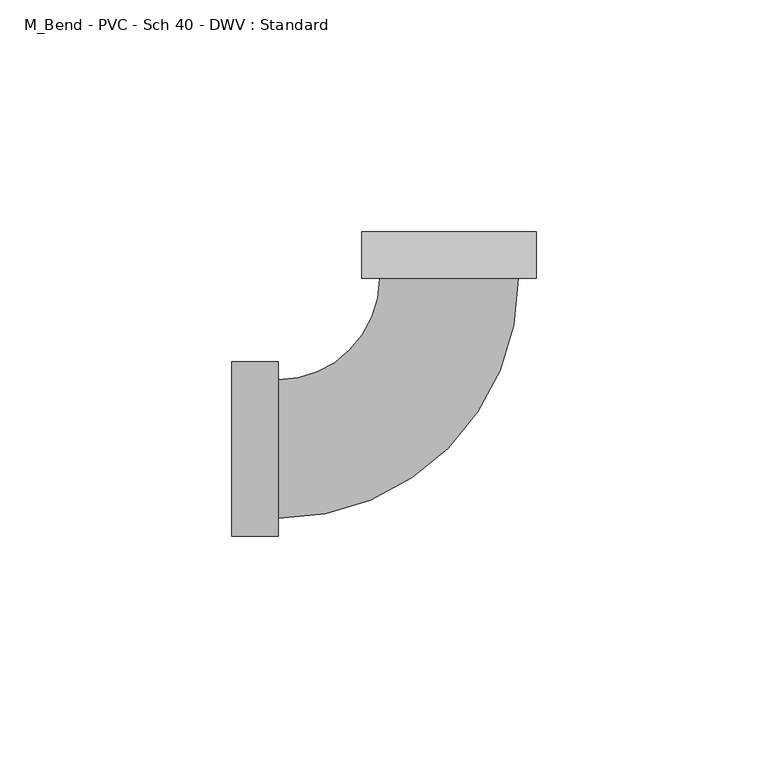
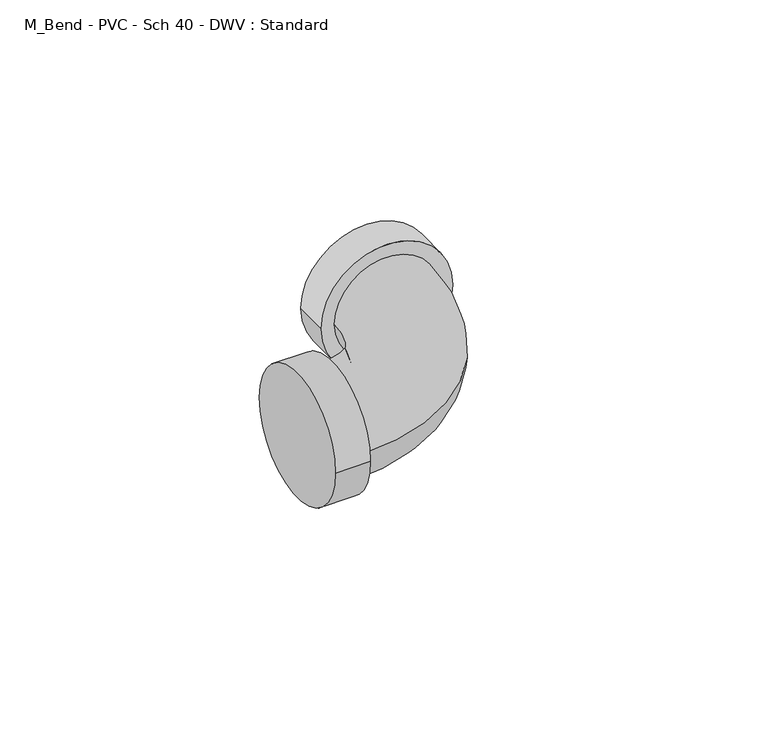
"""IFC4 building model written with IfcOpenShell, lengths in millimetres: pipe fitting geometry, M_Bend - PVC - Sch 40 - DWV : Standard."""

from ifc_helpers import new_model, si_unit, point, frame, origin, place, context, project, spatial, circle_curve, ellipse_curve, trimmed, source, transform, mapped, element, save
from ifc_brep_helpers import plane_surface, cylinder_surface, revolved_surface, advanced_brep


def m_bend_pvc_sch_40_dwv_standard_be9000f5(model_context):
    return source(origin(), model_context, "Body", "AdvancedBrep", [
        advanced_brep(
        [(-46.8140625, -18.7871094, 0.0), (-46.8140625, 18.7871094, 0.0), (-36.8140625, -18.7871094, 0.0), (-36.8140625, 18.7871094, 0.0), (-36.8140625, -14.9640625, 0.0), (-36.8140625, 14.9640625, 0.0), (-14.9640625, 36.8140625, 0.0), (14.9640625, 36.8140625, 0.0), (18.7871094, 36.8140625, 0.0), (-18.7871094, 36.8140625, 0.0), (18.7871094, 46.8140625, 0.0), (-18.7871094, 46.8140625, 0.0)],
        [
            (0, 1, circle_curve(frame((-46.8140625, 0.0, 0.0), z_axis=(-1.0, 0.0, 0.0), x_axis=(0.0, 1.0, 0.0)), 18.7871094)),
            (1, 0, circle_curve(frame((-46.8140625, 0.0, 0.0), z_axis=(-1.0, 0.0, 0.0), x_axis=(0.0, 1.0, 0.0)), 18.7871094)),
            (2, 3, circle_curve(frame((-36.8140625, 0.0, 0.0), z_axis=(1.0, 0.0, 0.0), x_axis=(0.0, 1.0, 0.0)), 18.7871094)),
            (3, 2, circle_curve(frame((-36.8140625, 0.0, 0.0), z_axis=(1.0, 0.0, 0.0), x_axis=(0.0, 1.0, 0.0)), 18.7871094)),
            (4, 5, circle_curve(frame((-36.8140625, 0.0, 0.0), z_axis=(-1.0, 0.0, 0.0), x_axis=(0.0, 1.0, 0.0)), 14.9640625)),
            (5, 4, circle_curve(frame((-36.8140625, 0.0, 0.0), z_axis=(-1.0, 0.0, 0.0), x_axis=(0.0, 1.0, 0.0)), 14.9640625)),
            (0, 2),
            (3, 1),
            (6, 5, circle_curve(frame((-36.8140625, 36.8140625, 0.0), z_axis=(0.0, 0.0, -1.0), x_axis=(0.0, -1.0, 0.0)), 21.85)),
            (4, 7, circle_curve(frame((-36.8140625, 36.8140625, 0.0), z_axis=(0.0, 0.0, 1.0), x_axis=(0.0, -1.0, 0.0)), 51.778125)),
            (7, 6, circle_curve(frame((0.0, 36.8140625, 0.0), z_axis=(0.0, -1.0, 0.0), x_axis=(-1.0, 0.0, 0.0)), 14.9640625)),
            (6, 7, circle_curve(frame((0.0, 36.8140625, 0.0), z_axis=(0.0, -1.0, 0.0), x_axis=(-1.0, 0.0, 0.0)), 14.9640625)),
            (8, 9, circle_curve(frame((0.0, 36.8140625, 0.0), z_axis=(0.0, -1.0, 0.0), x_axis=(-1.0, 0.0, 0.0)), 18.7871094)),
            (9, 8, circle_curve(frame((0.0, 36.8140625, 0.0), z_axis=(0.0, -1.0, 0.0), x_axis=(-1.0, 0.0, 0.0)), 18.7871094)),
            (10, 11, circle_curve(frame((0.0, 46.8140625, 0.0), z_axis=(0.0, 1.0, 0.0), x_axis=(-1.0, 0.0, 0.0)), 18.7871094)),
            (11, 10, circle_curve(frame((0.0, 46.8140625, 0.0), z_axis=(0.0, 1.0, 0.0), x_axis=(-1.0, 0.0, 0.0)), 18.7871094)),
            (8, 10),
            (11, 9),
        ],
        [
            plane_surface(frame((-46.8140625, 0.0, 0.0), z_axis=(-1.0, 0.0, 0.0), x_axis=(0.0, 0.0, 1.0))),
            plane_surface(frame((-36.8140625, 0.0, 0.0), z_axis=(1.0, 0.0, 0.0), x_axis=(0.0, 0.0, 1.0))),
            cylinder_surface(frame((-46.8140625, 0.0, 0.0), z_axis=(-1.0, 0.0, 0.0), x_axis=(0.0, 1.0, 0.0)), 18.7871094),
            revolved_surface(trimmed(ellipse_curve(frame((-36.8140625, 0.0, 0.0), z_axis=(-1.0, 0.0, 0.0), x_axis=(0.0, 1.0, 0.0)), 14.9640625, 14.9640625), [point((-36.8140625, -14.9640625, 0.0))], [point((-36.8140625, 14.9640625, 0.0))], True, "CARTESIAN"), (-36.8140625, 36.8140625, 0.0), (0.0, 0.0, 1.0)),
            revolved_surface(trimmed(ellipse_curve(frame((-36.8140625, 0.0, 0.0), z_axis=(-1.0, 0.0, 0.0), x_axis=(0.0, 1.0, 0.0)), 14.9640625, 14.9640625), [point((-36.8140625, 14.9640625, 0.0))], [point((-36.8140625, -14.9640625, 0.0))], True, "CARTESIAN"), (-36.8140625, 36.8140625, 0.0), (0.0, 0.0, 1.0)),
            plane_surface(frame((0.0, 36.8140625, 0.0), z_axis=(0.0, -1.0, 0.0), x_axis=(0.0, 0.0, 1.0))),
            plane_surface(frame((0.0, 46.8140625, 0.0), z_axis=(0.0, 1.0, 0.0), x_axis=(0.0, 0.0, 1.0))),
            cylinder_surface(frame((0.0, 36.8140625, 0.0), z_axis=(0.0, -1.0, 0.0), x_axis=(-1.0, 0.0, 0.0)), 18.7871094),
        ],
        [
            (0, [[1, 2]]),
            (1, [[3, 4], [5, 6]]),
            (2, [[-1, 7, -4, 8]]),
            (2, [[-2, -8, -3, -7]]),
            (3, [[9, -5, 10, 11]]),
            (4, [[-9, 12, -10, -6]]),
            (5, [[13, 14], [-11, -12]]),
            (6, [[15, 16]]),
            (7, [[-13, 17, -16, 18]]),
            (7, [[-14, -18, -15, -17]]),
        ],
    ),
    ])


if __name__ == "__main__":
    model = new_model("IFC4")
    model_context = context("Model", 3, world=origin())
    ifc_project = project(units=[si_unit("LENGTHUNIT", "METRE", prefix="MILLI")], contexts=[model_context])
    site = spatial("IfcSite", under=ifc_project)
    building = spatial("IfcBuilding", under=site)
    placement = place(None, origin())
    m_bend_pvc_sch_40_dwv_standard_shape = m_bend_pvc_sch_40_dwv_standard_be9000f5(model_context)
    element("IfcPipeFitting", 1, ObjectType="M_Bend - PVC - Sch 40 - DWV : Standard", at=placement, inside=building, context=model_context, shape_type="MappedRepresentation", body=[
        mapped(m_bend_pvc_sch_40_dwv_standard_shape, transform((0.0, 0.0, 0.0), x_axis=(1.0, 0.0, 0.0), y_axis=(0.0, 1.0, 0.0), z_axis=(0.0, 0.0, 1.0))),
    ])
    save(model, "model.ifc")
